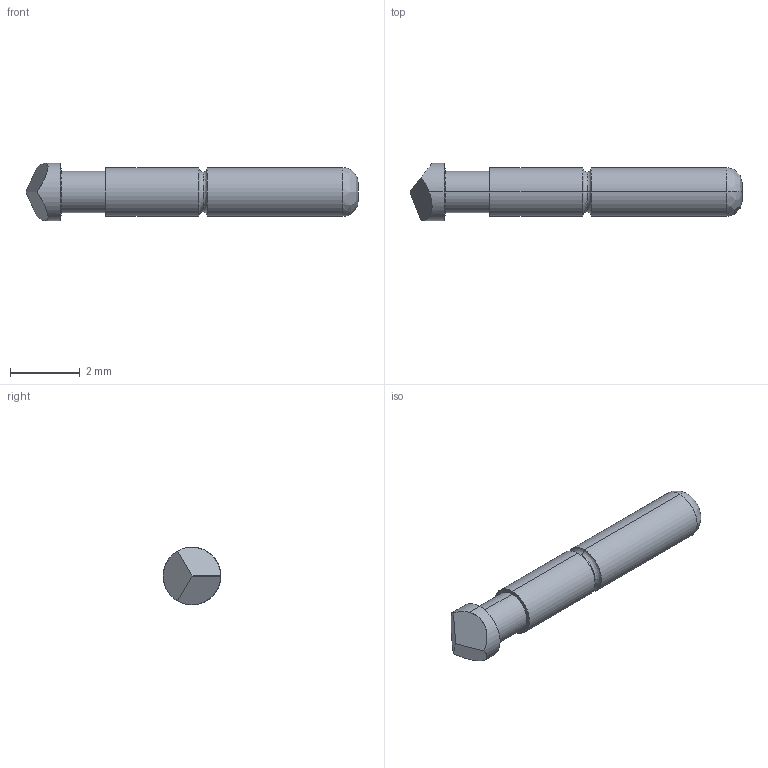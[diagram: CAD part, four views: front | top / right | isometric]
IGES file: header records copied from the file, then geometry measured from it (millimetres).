
Start section: SolidWorks IGES file using analytic representation for surfaces
Global section: file name: Z:\probe solid model mockups\Solidworks models\IGES Files\HPA-64\HPA-64-4.IGS; native system: SolidWorks 2006 by SolidWorks Corporation; preprocessor: SolidWorks 2006 by SolidWorks Corporation; author: tsakatani; date: 071220.100235; units: inch
Bounding box: 9.53 x 1.65 x 1.65 mm (x, y, z)
Surface area: 44.1 mm2 (no closed solid volume)
Topology: 0 solids, 0 shells, 21 faces, 162 edges, 162 vertices
Faces by surface type: bspline 11, revolution 10
